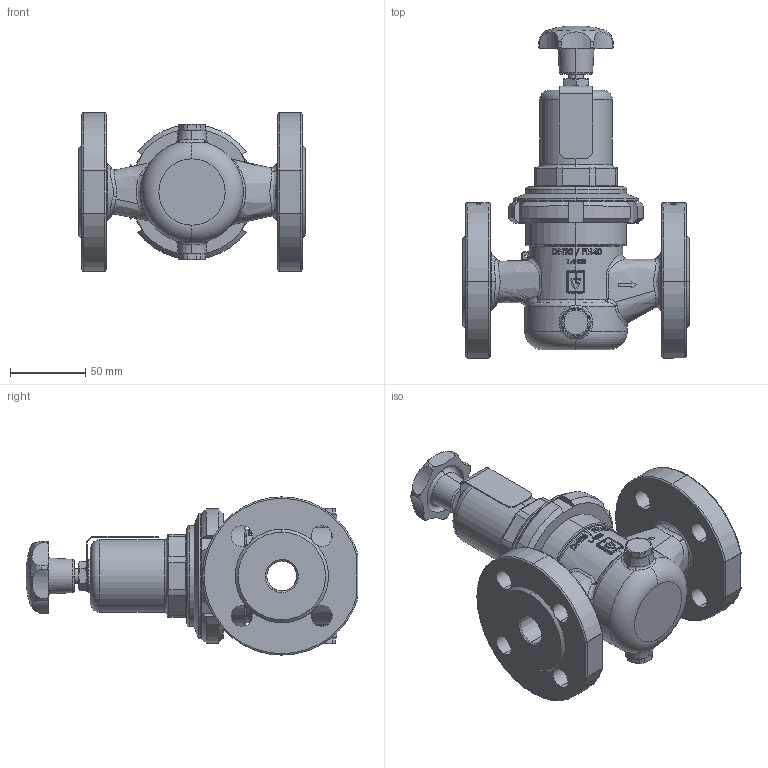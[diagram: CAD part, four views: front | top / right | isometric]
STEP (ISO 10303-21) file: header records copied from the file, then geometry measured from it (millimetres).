
FILE_DESCRIPTION (( 'STEP AP214' ), '1' );
FILE_NAME ('482mGFO-LP_20_FLFL_2020.STEP', '2022-06-22T12:23:52', ( '' ), ( '' ), 'SwSTEP 2.0', 'SolidWorks 2020', '' );
FILE_SCHEMA (( 'AUTOMOTIVE_DESIGN' ));
Length unit declared in the file: millimetre
Products named in the file (1): 482mGFO-LP_20_FLFL_2020
Bounding box: 150 x 220.13 x 105 mm (x, y, z)
Volume: 489725.6 mm3; surface area: 168229.8 mm2
Topology: 10 solids, 10 shells, 1406 faces, 3585 edges, 2280 vertices
Faces by surface type: plane 513, bspline 343, cylinder 330, cone 106, torus 102, sphere 12
Entity records: 79749 total; most frequent: CARTESIAN_POINT 33165, ORIENTED_EDGE 7122, DIRECTION 5532, EDGE_CURVE 3561, VERTEX_POINT 2280, AXIS2_PLACEMENT_3D 2090, EDGE_LOOP 1547, UNCERTAINTY_MEASURE_WITH_UNIT 1418
